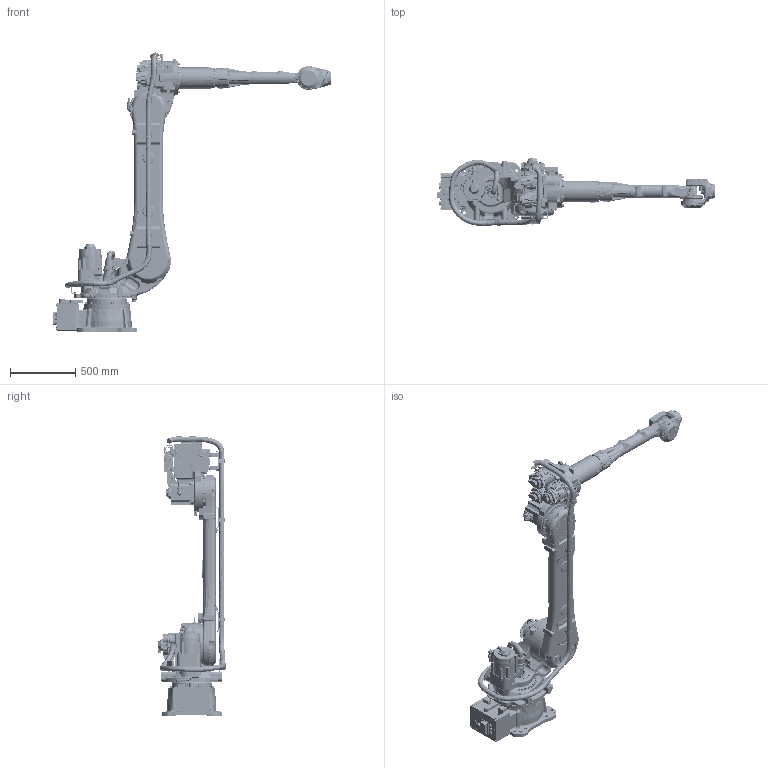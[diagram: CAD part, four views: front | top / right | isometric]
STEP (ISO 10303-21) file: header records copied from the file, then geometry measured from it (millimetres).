
FILE_DESCRIPTION((''),'2;1');
FILE_NAME('ASSY_VIEW_1-06VXL70-A0_ASM','2022-09-05T10:09:39',('tsoeda'),('YASKAWA ELECTRIC CORCORATION'),'CREO PARAMETRIC BY PTC INC, 2021072','CREO PARAMETRIC BY PTC INC, 2021072','');
FILE_SCHEMA(('CONFIG_CONTROL_DESIGN','SHAPE_APPEARANCE_LAYERS_GROUPS'));
Products named in the file (8): BASE_VIEW_1-06VXL70-A0; S_VIEW_1-06VXL70-A0; L_VIEW_1-06VXL70-A0; U_VIEW_1-06VXL70-A0; R_VIEW_1-06VXL70-A0; B_VIEW_1-06VXL70-A0; T_VIEW_1-06VXL70-A0; ASSY_VIEW_1-06VXL70-A0_ASM
Assembly tree (7 placements, depth 2):
  ASSY_VIEW_1-06VXL70-A0_ASM
    BASE_VIEW_1-06VXL70-A0
    S_VIEW_1-06VXL70-A0
    L_VIEW_1-06VXL70-A0
    U_VIEW_1-06VXL70-A0
    R_VIEW_1-06VXL70-A0
    B_VIEW_1-06VXL70-A0
    T_VIEW_1-06VXL70-A0
Bounding box: 2134.85 x 519.21 x 2136.4 mm (x, y, z)
Volume: 159715411.6 mm3; surface area: 6458955.5 mm2
Topology: 7 solids, 43 shells, 11824 faces, 30329 edges, 19308 vertices
Faces by surface type: cylinder 4831, plane 4230, bspline 1288, cone 645, torus 596, extrusion 125, sphere 99, revolution 10
Entity records: 628598 total; most frequent: CARTESIAN_POINT 170104, ORIENTED_EDGE 60380, DIRECTION 59175, PRESENTATION_STYLE_ASSIGNMENT 42249, STYLED_ITEM 42249, CURVE_STYLE 30387, EDGE_CURVE 30252, AXIS2_PLACEMENT_3D 23059
